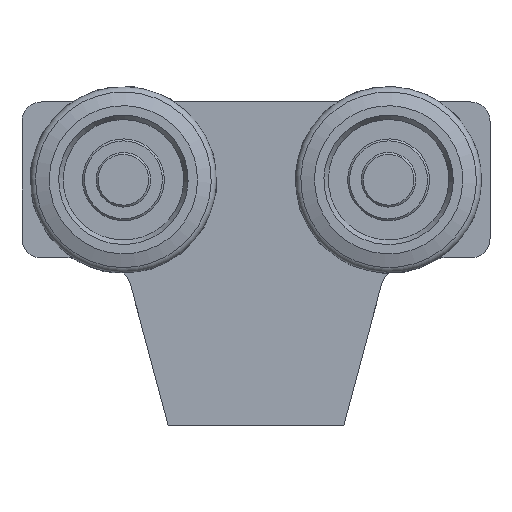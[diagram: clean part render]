
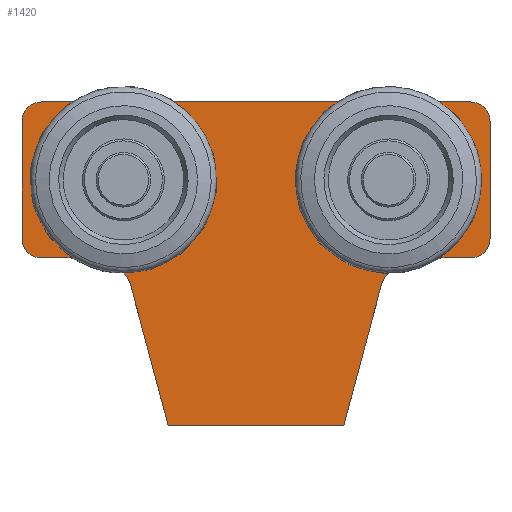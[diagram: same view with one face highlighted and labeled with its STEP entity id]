
A CAD part, top view. The second image highlights one B-rep face of the part: STEP entity #1420.
In plain terms, the highlighted planar face has unit normal (0, 0, 1).
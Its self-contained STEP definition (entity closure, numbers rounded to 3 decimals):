
#109=FACE_BOUND('',#329,.T.);
#110=FACE_BOUND('',#330,.T.);
#134=CIRCLE('',#1491,9.1);
#136=CIRCLE('',#1495,6.15);
#138=CIRCLE('',#1498,6.15);
#140=CIRCLE('',#1502,9.1);
#142=CIRCLE('',#1506,10.);
#144=CIRCLE('',#1510,5.);
#146=CIRCLE('',#1514,5.);
#148=CIRCLE('',#1518,5.);
#150=CIRCLE('',#1522,5.);
#152=CIRCLE('',#1526,10.);
#242=FACE_OUTER_BOUND('',#328,.T.);
#328=EDGE_LOOP('',(#1050,#1051,#1052,#1053,#1054,#1055,#1056,#1057,#1058,
#1059,#1060,#1061,#1062,#1063));
#329=EDGE_LOOP('',(#1064,#1065,#1066,#1067));
#330=EDGE_LOOP('',(#1068,#1069,#1070,#1071));
#417=LINE('',#2086,#525);
#422=LINE('',#2100,#530);
#427=LINE('',#2118,#535);
#431=LINE('',#2129,#539);
#435=LINE('',#2142,#543);
#439=LINE('',#2154,#547);
#443=LINE('',#2166,#551);
#447=LINE('',#2178,#555);
#451=LINE('',#2190,#559);
#455=LINE('',#2202,#563);
#458=LINE('',#2208,#566);
#461=LINE('',#2213,#569);
#525=VECTOR('',#1654,3.36);
#530=VECTOR('',#1667,3.36);
#535=VECTOR('',#1686,3.36);
#539=VECTOR('',#1698,3.36);
#543=VECTOR('',#1710,13.325);
#547=VECTOR('',#1722,30.);
#551=VECTOR('',#1734,110.);
#555=VECTOR('',#1746,30.);
#559=VECTOR('',#1758,13.325);
#563=VECTOR('',#1770,36.833);
#566=VECTOR('',#1775,45.);
#569=VECTOR('',#1780,36.833);
#633=VERTEX_POINT('',#2084);
#634=VERTEX_POINT('',#2085);
#637=VERTEX_POINT('',#2093);
#639=VERTEX_POINT('',#2099);
#641=VERTEX_POINT('',#2108);
#642=VERTEX_POINT('',#2109);
#645=VERTEX_POINT('',#2117);
#647=VERTEX_POINT('',#2123);
#649=VERTEX_POINT('',#2132);
#650=VERTEX_POINT('',#2133);
#653=VERTEX_POINT('',#2141);
#655=VERTEX_POINT('',#2147);
#657=VERTEX_POINT('',#2153);
#659=VERTEX_POINT('',#2159);
#661=VERTEX_POINT('',#2165);
#663=VERTEX_POINT('',#2171);
#665=VERTEX_POINT('',#2177);
#667=VERTEX_POINT('',#2183);
#669=VERTEX_POINT('',#2189);
#671=VERTEX_POINT('',#2195);
#673=VERTEX_POINT('',#2201);
#675=VERTEX_POINT('',#2207);
#768=EDGE_CURVE('',#633,#634,#417,.T.);
#772=EDGE_CURVE('',#634,#637,#134,.T.);
#775=EDGE_CURVE('',#637,#639,#422,.T.);
#778=EDGE_CURVE('',#639,#633,#136,.T.);
#780=EDGE_CURVE('',#641,#642,#138,.T.);
#784=EDGE_CURVE('',#642,#645,#427,.T.);
#787=EDGE_CURVE('',#645,#647,#140,.T.);
#790=EDGE_CURVE('',#647,#641,#431,.T.);
#792=EDGE_CURVE('',#649,#650,#142,.T.);
#796=EDGE_CURVE('',#650,#653,#435,.T.);
#799=EDGE_CURVE('',#653,#655,#144,.T.);
#802=EDGE_CURVE('',#655,#657,#439,.T.);
#805=EDGE_CURVE('',#657,#659,#146,.T.);
#808=EDGE_CURVE('',#659,#661,#443,.T.);
#811=EDGE_CURVE('',#661,#663,#148,.T.);
#814=EDGE_CURVE('',#663,#665,#447,.T.);
#817=EDGE_CURVE('',#665,#667,#150,.T.);
#820=EDGE_CURVE('',#667,#669,#451,.T.);
#823=EDGE_CURVE('',#669,#671,#152,.T.);
#826=EDGE_CURVE('',#671,#673,#455,.T.);
#829=EDGE_CURVE('',#673,#675,#458,.T.);
#832=EDGE_CURVE('',#675,#649,#461,.T.);
#1050=ORIENTED_EDGE('',*,*,#792,.F.);
#1051=ORIENTED_EDGE('',*,*,#832,.F.);
#1052=ORIENTED_EDGE('',*,*,#829,.F.);
#1053=ORIENTED_EDGE('',*,*,#826,.F.);
#1054=ORIENTED_EDGE('',*,*,#823,.F.);
#1055=ORIENTED_EDGE('',*,*,#820,.F.);
#1056=ORIENTED_EDGE('',*,*,#817,.F.);
#1057=ORIENTED_EDGE('',*,*,#814,.F.);
#1058=ORIENTED_EDGE('',*,*,#811,.F.);
#1059=ORIENTED_EDGE('',*,*,#808,.F.);
#1060=ORIENTED_EDGE('',*,*,#805,.F.);
#1061=ORIENTED_EDGE('',*,*,#802,.F.);
#1062=ORIENTED_EDGE('',*,*,#799,.F.);
#1063=ORIENTED_EDGE('',*,*,#796,.F.);
#1064=ORIENTED_EDGE('',*,*,#768,.T.);
#1065=ORIENTED_EDGE('',*,*,#772,.T.);
#1066=ORIENTED_EDGE('',*,*,#775,.T.);
#1067=ORIENTED_EDGE('',*,*,#778,.T.);
#1068=ORIENTED_EDGE('',*,*,#780,.T.);
#1069=ORIENTED_EDGE('',*,*,#784,.T.);
#1070=ORIENTED_EDGE('',*,*,#787,.T.);
#1071=ORIENTED_EDGE('',*,*,#790,.T.);
#1362=PLANE('',#1531);
#1420=ADVANCED_FACE('',(#242,#109,#110),#1362,.T.);
#1491=AXIS2_PLACEMENT_3D('',#2094,#1660,#1661);
#1495=AXIS2_PLACEMENT_3D('',#2105,#1672,#1673);
#1498=AXIS2_PLACEMENT_3D('',#2110,#1678,#1679);
#1502=AXIS2_PLACEMENT_3D('',#2124,#1691,#1692);
#1506=AXIS2_PLACEMENT_3D('',#2134,#1702,#1703);
#1510=AXIS2_PLACEMENT_3D('',#2148,#1715,#1716);
#1514=AXIS2_PLACEMENT_3D('',#2160,#1727,#1728);
#1518=AXIS2_PLACEMENT_3D('',#2172,#1739,#1740);
#1522=AXIS2_PLACEMENT_3D('',#2184,#1751,#1752);
#1526=AXIS2_PLACEMENT_3D('',#2196,#1763,#1764);
#1531=AXIS2_PLACEMENT_3D('',#2215,#1782,#1783);
#1654=DIRECTION('',(-0.866,0.5,0.));
#1660=DIRECTION('center_axis',(0.,0.,-1.));
#1661=DIRECTION('ref_axis',(-0.866,-0.5,0.));
#1667=DIRECTION('',(-0.866,-0.5,0.));
#1672=DIRECTION('center_axis',(0.,0.,-1.));
#1673=DIRECTION('ref_axis',(0.808,-0.589,0.));
#1678=DIRECTION('center_axis',(0.,0.,-1.));
#1679=DIRECTION('ref_axis',(-0.808,0.589,0.));
#1686=DIRECTION('',(-0.866,0.5,0.));
#1691=DIRECTION('center_axis',(0.,0.,-1.));
#1692=DIRECTION('ref_axis',(0.866,0.5,0.));
#1698=DIRECTION('',(-0.866,-0.5,0.));
#1702=DIRECTION('center_axis',(0.,0.,1.));
#1703=DIRECTION('ref_axis',(-0.966,-0.258,0.));
#1710=DIRECTION('',(1.,0.,0.));
#1715=DIRECTION('center_axis',(0.,0.,-1.));
#1716=DIRECTION('ref_axis',(-1.,0.,0.));
#1722=DIRECTION('',(0.,-1.,0.));
#1727=DIRECTION('center_axis',(0.,0.,-1.));
#1728=DIRECTION('ref_axis',(0.,1.,0.));
#1734=DIRECTION('',(-1.,0.,0.));
#1739=DIRECTION('center_axis',(0.,0.,-1.));
#1740=DIRECTION('ref_axis',(1.,0.,0.));
#1746=DIRECTION('',(0.,1.,0.));
#1751=DIRECTION('center_axis',(0.,0.,-1.));
#1752=DIRECTION('ref_axis',(0.,-1.,0.));
#1758=DIRECTION('',(1.,0.,0.));
#1763=DIRECTION('center_axis',(0.,0.,1.));
#1764=DIRECTION('ref_axis',(0.,-1.,0.));
#1770=DIRECTION('',(0.258,0.966,0.));
#1775=DIRECTION('',(1.,0.,0.));
#1780=DIRECTION('',(0.258,-0.966,0.));
#1782=DIRECTION('center_axis',(0.,0.,1.));
#1783=DIRECTION('ref_axis',(1.,0.,0.));
#2084=CARTESIAN_POINT('',(-38.971,3.622,8.));
#2085=CARTESIAN_POINT('',(-41.88,5.301,8.));
#2086=CARTESIAN_POINT('',(-26.53,-3.561,8.));
#2093=CARTESIAN_POINT('',(-26.12,5.301,8.));
#2094=CARTESIAN_POINT('Origin',(-34.,0.75,8.));
#2099=CARTESIAN_POINT('',(-29.029,3.622,8.));
#2100=CARTESIAN_POINT('',(-14.516,12.001,8.));
#2105=CARTESIAN_POINT('Origin',(-34.,0.,8.));
#2108=CARTESIAN_POINT('',(38.971,3.622,8.));
#2109=CARTESIAN_POINT('',(29.029,3.622,8.));
#2110=CARTESIAN_POINT('Origin',(34.,0.,8.));
#2117=CARTESIAN_POINT('',(26.12,5.301,8.));
#2118=CARTESIAN_POINT('',(15.97,11.161,8.));
#2123=CARTESIAN_POINT('',(41.88,5.301,8.));
#2124=CARTESIAN_POINT('Origin',(34.,0.75,8.));
#2129=CARTESIAN_POINT('',(27.984,-2.721,8.));
#2132=CARTESIAN_POINT('',(32.015,27.417,8.));
#2133=CARTESIAN_POINT('',(41.675,20.,8.));
#2134=CARTESIAN_POINT('Origin',(41.675,30.,8.));
#2141=CARTESIAN_POINT('',(55.,20.,8.));
#2142=CARTESIAN_POINT('',(41.675,20.,8.));
#2147=CARTESIAN_POINT('',(60.,15.,8.));
#2148=CARTESIAN_POINT('Origin',(55.,15.,8.));
#2153=CARTESIAN_POINT('',(60.,-15.,8.));
#2154=CARTESIAN_POINT('',(60.,15.,8.));
#2159=CARTESIAN_POINT('',(55.,-20.,8.));
#2160=CARTESIAN_POINT('Origin',(55.,-15.,8.));
#2165=CARTESIAN_POINT('',(-55.,-20.,8.));
#2166=CARTESIAN_POINT('',(55.,-20.,8.));
#2171=CARTESIAN_POINT('',(-60.,-15.,8.));
#2172=CARTESIAN_POINT('Origin',(-55.,-15.,8.));
#2177=CARTESIAN_POINT('',(-60.,15.,8.));
#2178=CARTESIAN_POINT('',(-60.,-15.,8.));
#2183=CARTESIAN_POINT('',(-55.,20.,8.));
#2184=CARTESIAN_POINT('Origin',(-55.,15.,8.));
#2189=CARTESIAN_POINT('',(-41.675,20.,8.));
#2190=CARTESIAN_POINT('',(-55.,20.,8.));
#2195=CARTESIAN_POINT('',(-32.015,27.417,8.));
#2196=CARTESIAN_POINT('Origin',(-41.675,30.,8.));
#2201=CARTESIAN_POINT('',(-22.5,63.,8.));
#2202=CARTESIAN_POINT('',(-32.015,27.417,8.));
#2207=CARTESIAN_POINT('',(22.5,63.,8.));
#2208=CARTESIAN_POINT('',(-22.5,63.,8.));
#2213=CARTESIAN_POINT('',(22.5,63.,8.));
#2215=CARTESIAN_POINT('Origin',(0.,13.659,8.));
